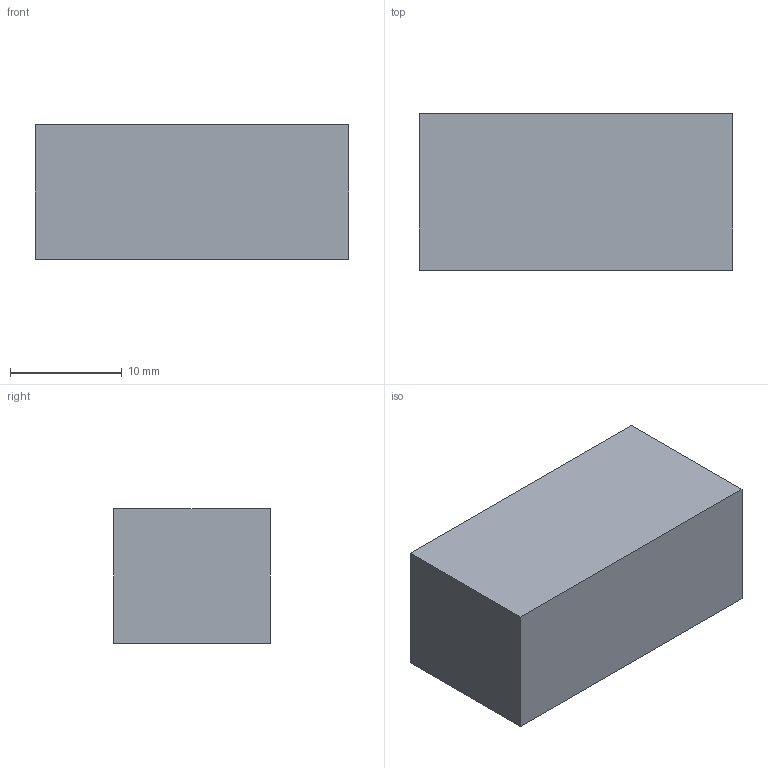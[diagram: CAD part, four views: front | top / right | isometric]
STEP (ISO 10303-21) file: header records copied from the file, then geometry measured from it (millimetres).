
FILE_DESCRIPTION(('Open CASCADE Model'),'2;1');
FILE_NAME('Open CASCADE Shape Model','2026-10-13T11:47:37',('Author'),( 'Open CASCADE'),'Open CASCADE STEP processor 7.8','Open CASCADE 7.8' ,'Unknown');
FILE_SCHEMA(('AUTOMOTIVE_DESIGN { 1 0 10303 214 1 1 1 1 }'));
Length unit declared in the file: millimetre
Products named in the file (1): Open CASCADE STEP translator 7.8 82
Bounding box: 28 x 14 x 12 mm (x, y, z)
Volume: 4704 mm3; surface area: 1792 mm2
Topology: 1 solids, 1 shells, 6 faces, 12 edges, 8 vertices
Faces by surface type: plane 6
Entity records: 322 total; most frequent: CARTESIAN_POINT 51, DIRECTION 50, LINE 36, VECTOR 36, ORIENTED_EDGE 24, PCURVE 24, DEFINITIONAL_REPRESENTATION 24, EDGE_CURVE 12
